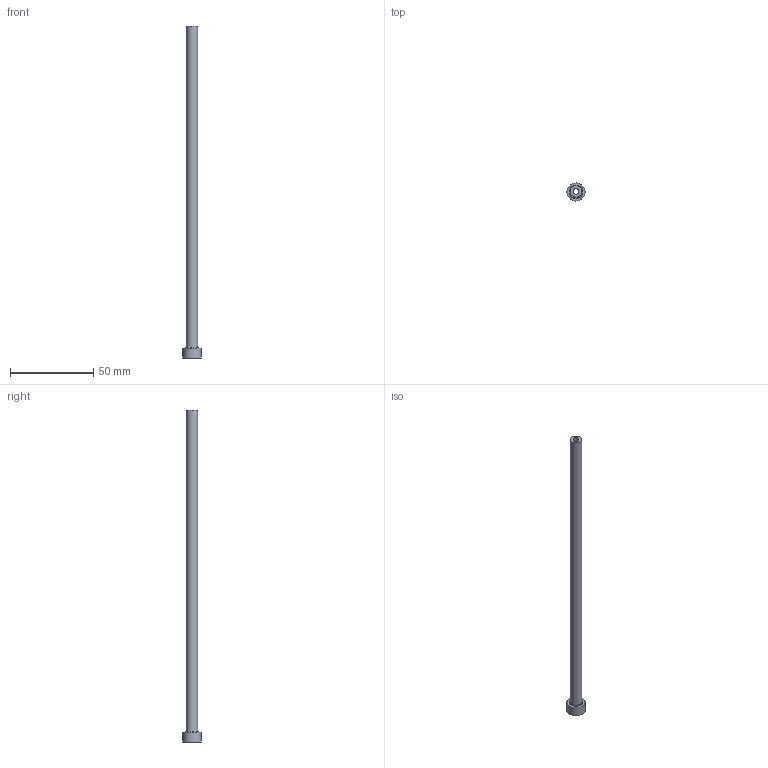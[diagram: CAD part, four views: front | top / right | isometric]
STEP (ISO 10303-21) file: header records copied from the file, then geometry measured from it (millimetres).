
FILE_DESCRIPTION (( 'STEP AP203' ), '1' );
FILE_NAME ('JES-35-7-200.STEP', '2017-06-24T01:59:07', ( '' ), ( '' ), 'SwSTEP 2.0', 'SolidWorks 2017', '' );
FILE_SCHEMA (( 'CONFIG_CONTROL_DESIGN' ));
Length unit declared in the file: millimetre
Products named in the file (1): JES-35-7-200
Bounding box: 11 x 11 x 200 mm (x, y, z)
Volume: 5744 mm3; surface area: 7029.5 mm2
Topology: 1 solids, 1 shells, 10 faces, 17 edges, 10 vertices
Faces by surface type: cylinder 4, plane 3, cone 2, torus 1
Full cylindrical faces by diameter (mm): 3.5 x1, 4 x1, 7 x1, 11 x1
Entity records: 285 total; most frequent: DIRECTION 42, CARTESIAN_POINT 31, AXIS2_PLACEMENT_3D 21, ORIENTED_EDGE 20, EDGE_LOOP 20, FACE_OUTER_BOUND 15, VERTEX_POINT 10, EDGE_CURVE 10
